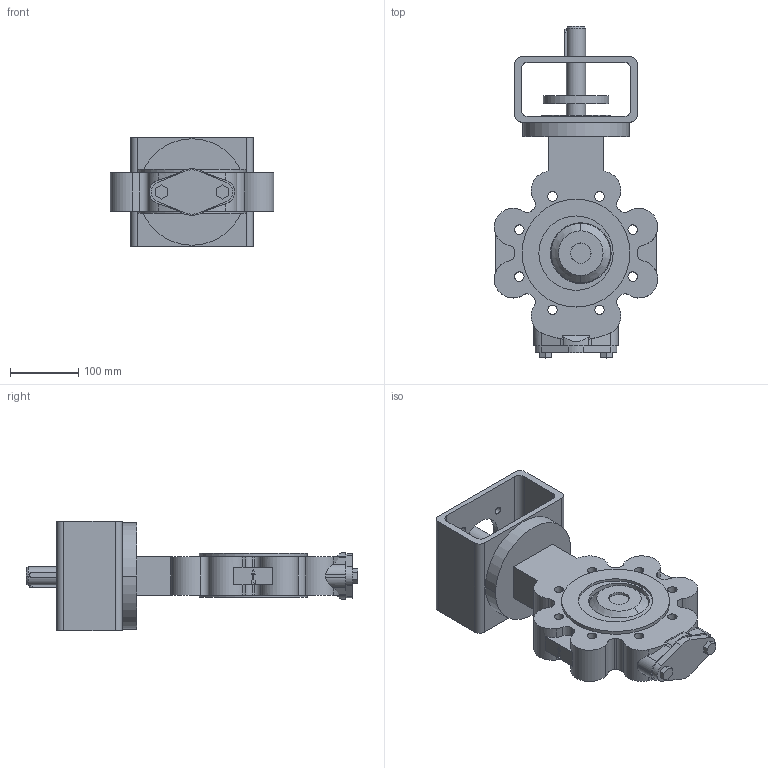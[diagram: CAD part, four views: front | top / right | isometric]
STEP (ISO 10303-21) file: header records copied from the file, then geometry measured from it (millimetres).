
FILE_DESCRIPTION( ( '' ), '1' );
FILE_NAME( 'F:/DE-SHS/TB/OR/04-Sonstiges/daten/files_3d/018_ZETRIX-PN10_freiesWellende/c000006347.stp', '2016-09-01T11:03:35', ( '' ), ( '' ), ' ', ' ', ' ' );
FILE_SCHEMA( ( 'CONFIG_CONTROL_DESIGN' ) );
Length unit declared in the file: millimetre
Products named in the file (1): 1
Bounding box: 239.75 x 486.7 x 160 mm (x, y, z)
Volume: 3840467.7 mm3; surface area: 410736.9 mm2
Topology: 1 solids, 1 shells, 247 faces, 668 edges, 446 vertices
Faces by surface type: cylinder 149, plane 94, cone 4
Entity records: 8428 total; most frequent: CARTESIAN_POINT 1812, DIRECTION 1454, ORIENTED_EDGE 1336, EDGE_CURVE 668, AXIS2_PLACEMENT_3D 556, VERTEX_POINT 446, LINE 342, VECTOR 342
